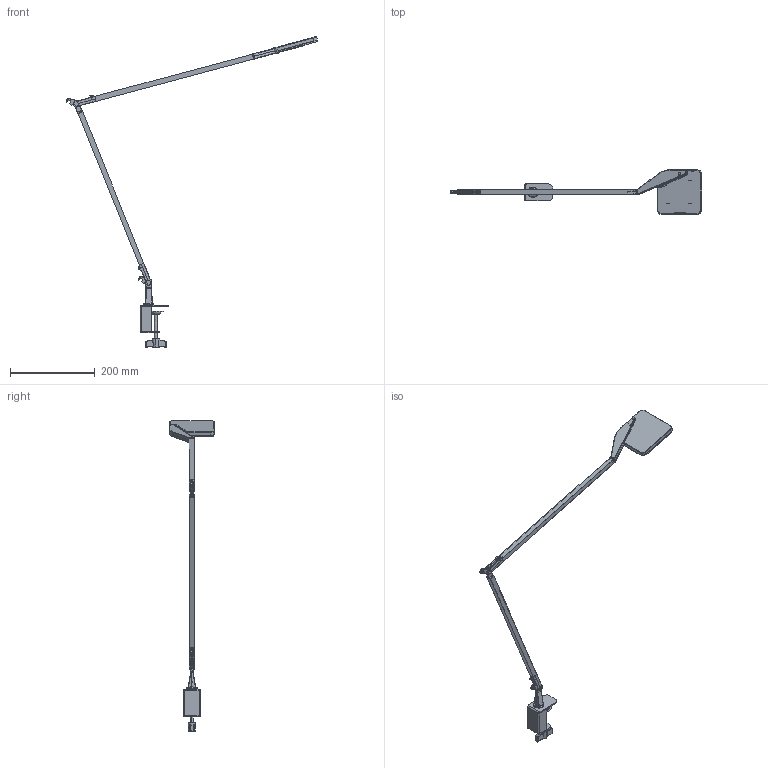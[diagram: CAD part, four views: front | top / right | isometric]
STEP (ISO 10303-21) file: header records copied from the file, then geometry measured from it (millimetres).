
FILE_DESCRIPTION(/* description */ (''),/* implementation_level */ '2;1');
FILE_NAME(/* name */ 'CM077__.000',/* time_stamp */ '2024-09-02T12:21:29+02:00',/* author */ (''),/* organization */ (''),/* preprocessor_version */ 'ST-DEVELOPER v16.5',/* originating_system */ '',/* authorisation */ '');
FILE_SCHEMA (('AUTOMOTIVE_DESIGN'));
Products named in the file (1): Document
Bounding box: 592.94 x 105.43 x 733.9 mm (x, y, z)
Volume: 161181 mm3; surface area: 173611.9 mm2
Topology: 36 solids, 43 shells, 2889 faces, 6803 edges, 4110 vertices
Faces by surface type: bspline 1986, plane 903
Entity records: 137314 total; most frequent: CARTESIAN_POINT 96462, ORIENTED_EDGE 13439, EDGE_CURVE 6767, B_SPLINE_CURVE_WITH_KNOTS 4431, VERTEX_POINT 4109, EDGE_LOOP 3113, ADVANCED_FACE 2889, FACE_OUTER_BOUND 2889
